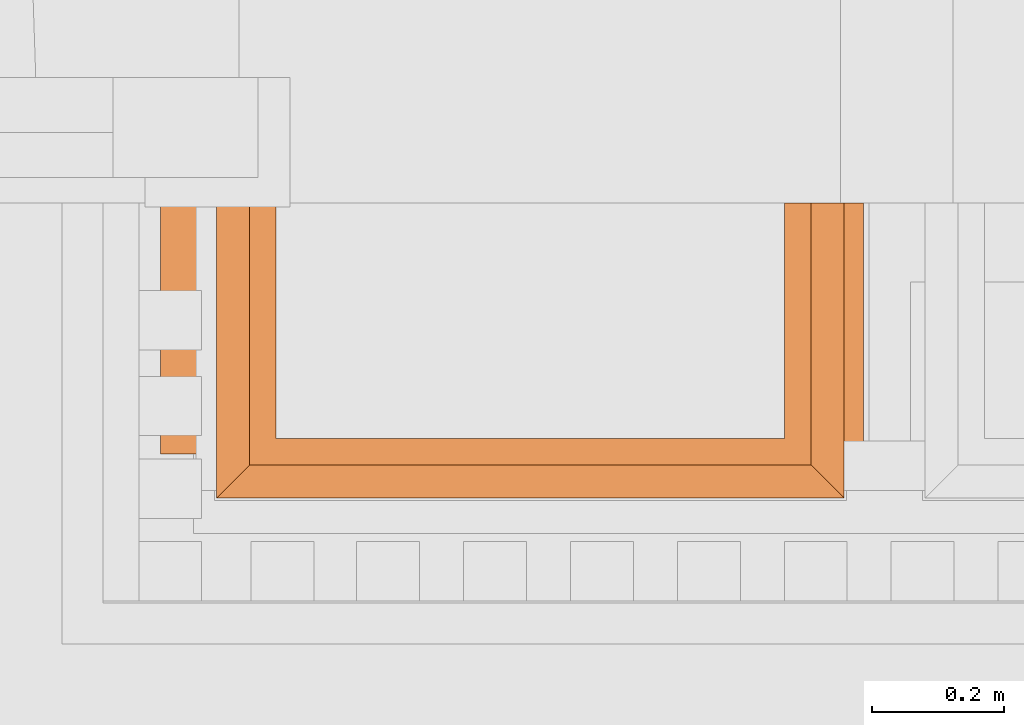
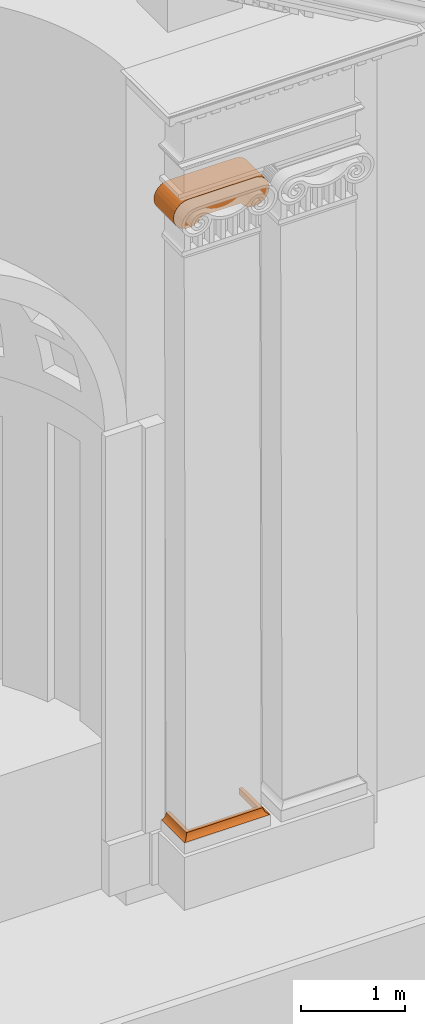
# One storey, part 33 of 44: 2 proxies.
"""IFC2X3 building model written with IfcOpenShell, lengths in metres."""

from ifc_helpers import new_model, entity, si_unit, converted_unit, derived_unit, direction, frame, origin, place, context, subcontext, project, spatial, faceted_brep, material, element, save


model = new_model("IFC2X3")

# Units and contexts
model_context = context("Model", 3, precision=1e-05, world=origin(), true_north=direction((6.12303176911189e-17, 1.0)))
body_context = subcontext(model_context, "Body", "Model", "MODEL_VIEW")
ifc_project = project(units=[si_unit("LENGTHUNIT", "METRE"), si_unit("AREAUNIT", "SQUARE_METRE"), si_unit("VOLUMEUNIT", "CUBIC_METRE"), converted_unit("PLANEANGLEUNIT", "DEGREE", entity("IfcRatioMeasure", 0.0174532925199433), si_unit("PLANEANGLEUNIT", "RADIAN"), dimensions=[0, 0, 0, 0, 0, 0, 0]), si_unit("MASSUNIT", "GRAM", prefix="KILO"), derived_unit("MASSDENSITYUNIT", [(si_unit("MASSUNIT", "GRAM", prefix="KILO"), 1), (si_unit("LENGTHUNIT", "METRE"), -3)]), si_unit("TIMEUNIT", "SECOND"), si_unit("FREQUENCYUNIT", "HERTZ"), si_unit("THERMODYNAMICTEMPERATUREUNIT", "DEGREE_CELSIUS"), derived_unit("THERMALTRANSMITTANCEUNIT", [(si_unit("MASSUNIT", "GRAM", prefix="KILO"), 1), (si_unit("THERMODYNAMICTEMPERATUREUNIT", "KELVIN"), -1), (si_unit("TIMEUNIT", "SECOND"), -3)]), derived_unit("VOLUMETRICFLOWRATEUNIT", [(si_unit("LENGTHUNIT", "METRE"), 3), (si_unit("TIMEUNIT", "SECOND"), -1)]), si_unit("ELECTRICCURRENTUNIT", "AMPERE"), si_unit("ELECTRICVOLTAGEUNIT", "VOLT"), si_unit("POWERUNIT", "WATT"), si_unit("FORCEUNIT", "NEWTON", prefix="KILO"), si_unit("ILLUMINANCEUNIT", "LUX"), si_unit("LUMINOUSFLUXUNIT", "LUMEN"), si_unit("LUMINOUSINTENSITYUNIT", "CANDELA"), derived_unit("USERDEFINED", [(si_unit("MASSUNIT", "GRAM", prefix="KILO"), -1), (si_unit("LENGTHUNIT", "METRE"), -2), (si_unit("TIMEUNIT", "SECOND"), 3), (si_unit("LUMINOUSFLUXUNIT", "LUMEN"), 1)]), derived_unit("LINEARVELOCITYUNIT", [(si_unit("LENGTHUNIT", "METRE"), 1), (si_unit("TIMEUNIT", "SECOND"), -1)]), si_unit("PRESSUREUNIT", "PASCAL"), derived_unit("USERDEFINED", [(si_unit("LENGTHUNIT", "METRE"), -2), (si_unit("MASSUNIT", "GRAM", prefix="KILO"), 1), (si_unit("TIMEUNIT", "SECOND"), -2)])], contexts=[model_context])

# Site, building, storey
site_placement = place(None, origin())
site = spatial("IfcSite", under=ifc_project, at=site_placement, Name="Default", CompositionType="ELEMENT")
building_placement = place(site_placement, origin())
building = spatial("IfcBuilding", under=site, at=building_placement, CompositionType="ELEMENT")
storey_placement = place(building_placement, origin())
storey = spatial("IfcBuildingStorey", under=building, at=storey_placement, Name="Livello 1", CompositionType="ELEMENT", Elevation=0.0)

# Proxies
ifc_material = material(Name="Travertino")
proxy_1_placement = place(storey_placement, frame((2.69709081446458, 0.883372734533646, 21.2505882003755)))
element("IfcBuildingElementProxy", 1, at=proxy_1_placement, inside=storey, material=ifc_material, Name="Stratigrafia", context=body_context, shape_type="Brep", body=[
    faceted_brep([(0.202441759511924, 0.195, 0.00495230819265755), (0.202228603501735, 0.195, 0.00475895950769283), (0.219471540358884, 0.195, 0.00918128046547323), (0.236149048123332, 0.195, 0.0154051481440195), (0.235377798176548, 0.195, 0.0155005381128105), (0.234604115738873, 0.195, 0.0155817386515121), (0.23276441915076, 0.195, 0.0157169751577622), (0.230920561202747, 0.195, 0.0157713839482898), (0.228992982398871, 0.195, 0.0157417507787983), (0.227068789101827, 0.195, 0.0156237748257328), (0.225151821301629, 0.195, 0.0154176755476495), (0.223246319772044, 0.195, 0.015123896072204), (0.221437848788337, 0.195, 0.0147613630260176), (0.219647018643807, 0.195, 0.0143198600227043), (0.21684041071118, 0.195, 0.0134560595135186), (0.214100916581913, 0.195, 0.0123985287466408), (0.21130606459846, 0.195, 0.0110826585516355), (0.208615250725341, 0.195, 0.00956534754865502), (0.205538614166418, 0.195, 0.00748647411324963), (0.202656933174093, 0.195, 0.00514482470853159), (0.235311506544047, 0.14769119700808, 0.015508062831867), (0.234604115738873, 0.15122943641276, 0.0155817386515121), (0.23535053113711, 0.153479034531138, 0.0155036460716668), (0.235306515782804, 0.158497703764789, 0.0155086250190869), (0.236149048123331, 0.1625, 0.0154051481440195), (0.236149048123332, 0.1584375, 0.0154051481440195), (0.236149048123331, 0.154375, 0.0154051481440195), (0.23614904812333, 0.187923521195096, 0.0154051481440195), (0.235377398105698, 0.184385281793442, 0.0155005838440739), (0.235447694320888, 0.189692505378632, 0.0154924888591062), (0.235285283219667, 0.163523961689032, 0.0155110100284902), (0.234604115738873, 0.16747943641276, 0.0155817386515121), (0.235367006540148, 0.169772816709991, 0.0155017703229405), (0.234604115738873, 0.187923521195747, 0.0155817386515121), (0.236149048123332, 0.14625, 0.0154051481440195), (0.235377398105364, 0.140614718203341, 0.0155005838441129), (0.234604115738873, 0.144152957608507, 0.0155817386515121), (0.234604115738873, 0.137076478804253, 0.0155817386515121), (0.234604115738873, 0.182288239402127, 0.0155817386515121), (0.235392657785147, 0.17846167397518, 0.015498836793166), (0.234604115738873, 0.172066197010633, 0.0155817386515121), (0.236149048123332, 0.137076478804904, 0.0154051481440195), (0.235307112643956, 0.135307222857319, 0.0155085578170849), (0.236149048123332, 0.13, 0.0154051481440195), (0.23614904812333, 0.180847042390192, 0.0154051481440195), (0.23537779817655, 0.13, 0.0155005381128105), (0.234604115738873, 0.13, 0.0155817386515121), (0.234604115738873, 0.176652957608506, 0.0155817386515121), (0.234604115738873, 0.18084967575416, 0.0155817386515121), (0.23614904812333, 0.171673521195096, 0.0154051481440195), (0.234604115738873, 0.158305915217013, 0.0155817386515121), (0.234604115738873, 0.1625, 0.0155817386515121), (0.232764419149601, 0.151225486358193, 0.0157169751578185), (0.232651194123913, 0.1654432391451, 0.0157226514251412), (0.230920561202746, 0.158300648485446, 0.0157713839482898), (0.23276441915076, 0.13, 0.0157169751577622), (0.230920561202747, 0.13, 0.0157713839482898), (0.230920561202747, 0.144150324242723, 0.0157713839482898), (0.232764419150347, 0.181836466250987, 0.0157169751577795), (0.230920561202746, 0.180849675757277, 0.0157713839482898), (0.230920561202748, 0.1625, 0.0157713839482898), (0.228992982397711, 0.151224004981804, 0.015741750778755), (0.228865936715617, 0.166307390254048, 0.0157366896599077), (0.227068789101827, 0.158298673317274, 0.0156237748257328), (0.228992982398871, 0.13, 0.0157417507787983), (0.227068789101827, 0.13, 0.0156237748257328), (0.227068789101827, 0.144149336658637, 0.0156237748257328), (0.228992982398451, 0.181275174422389, 0.015741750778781), (0.227068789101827, 0.180850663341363, 0.0156237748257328), (0.227068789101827, 0.1625, 0.0156237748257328), (0.225151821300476, 0.151224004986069, 0.0154176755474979), (0.225025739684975, 0.16630961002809, 0.0154009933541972), (0.223246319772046, 0.15829867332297, 0.015123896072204), (0.225151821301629, 0.13, 0.0154176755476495), (0.223246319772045, 0.13, 0.015123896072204), (0.223246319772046, 0.144149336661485, 0.015123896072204), (0.225151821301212, 0.181273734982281, 0.0154176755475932), (0.223246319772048, 0.180850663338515, 0.015123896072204), (0.223246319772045, 0.1625, 0.015123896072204), (0.221437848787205, 0.15122548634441, 0.014761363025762), (0.221327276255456, 0.165441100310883, 0.0147365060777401), (0.219647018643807, 0.158300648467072, 0.0143198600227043), (0.221437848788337, 0.13, 0.0147613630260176), (0.219647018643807, 0.13, 0.0143198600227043), (0.219647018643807, 0.144150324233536, 0.0143198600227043), (0.221437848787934, 0.181837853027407, 0.0147613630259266), (0.219647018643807, 0.180849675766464, 0.0143198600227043), (0.219647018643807, 0.1625, 0.0143198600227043), (0.217295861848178, 0.150768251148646, 0.0136109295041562), (0.21684041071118, 0.13, 0.0134560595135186), (0.216694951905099, 0.171325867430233, 0.0134053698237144), (0.214100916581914, 0.158305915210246, 0.0123985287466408), (0.214100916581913, 0.166683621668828, 0.0123985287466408), (0.214100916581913, 0.13, 0.0123985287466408), (0.211306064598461, 0.13, 0.0110826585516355), (0.208615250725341, 0.13, 0.00956534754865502), (0.211427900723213, 0.154345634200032, 0.0111453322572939), (0.210711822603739, 0.174546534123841, 0.0107697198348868), (0.208615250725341, 0.1625, 0.00956534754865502), (0.208615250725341, 0.166667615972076, 0.00956534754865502), (0.202656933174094, 0.158332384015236, 0.00514482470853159), (0.202656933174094, 0.16046875, 0.00514482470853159), (0.202656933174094, 0.1625, 0.00514482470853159), (0.202656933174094, 0.164790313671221, 0.00514482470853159), (0.202656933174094, 0.167080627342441, 0.00514482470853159), (0.202656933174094, 0.169370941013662, 0.00514482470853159), (0.202656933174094, 0.171661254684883, 0.00514482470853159), (0.202656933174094, 0.173951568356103, 0.00514482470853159), (0.202656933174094, 0.176241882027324, 0.00514482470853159), (0.202656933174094, 0.178532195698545, 0.00514482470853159), (0.202656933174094, 0.180822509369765, 0.00514482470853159), (0.202656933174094, 0.184366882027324, 0.00514482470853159), (0.202656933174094, 0.187911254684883, 0.00514482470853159), (0.202656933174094, 0.191455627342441, 0.00514482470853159), (0.205631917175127, 0.15726318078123, 0.00755549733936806), (0.205538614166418, 0.13, 0.00748647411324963), (0.202656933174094, 0.13, 0.00514482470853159), (0.202656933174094, 0.133544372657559, 0.00514482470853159), (0.202656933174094, 0.135834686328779, 0.00514482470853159), (0.202656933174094, 0.138125, 0.00514482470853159), (0.202656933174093, 0.14015625, 0.00514482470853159), (0.202656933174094, 0.1421875, 0.00514482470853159), (0.202656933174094, 0.14421875, 0.00514482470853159), (0.202656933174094, 0.14625, 0.00514482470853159), (0.202656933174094, 0.14828125, 0.00514482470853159), (0.202656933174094, 0.1503125, 0.00514482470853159), (0.202656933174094, 0.15234375, 0.00514482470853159), (0.202656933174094, 0.154375, 0.00514482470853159), (0.202656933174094, 0.15640625, 0.00514482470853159), (0.202435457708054, 0.141578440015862, 0.00494662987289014), (0.202442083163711, 0.139378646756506, 0.00495259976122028), (0.202452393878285, 0.179677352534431, 0.00496188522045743), (0.202452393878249, 0.17738703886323, 0.00496188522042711), (0.202228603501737, 0.176677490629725, 0.00475895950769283), (0.202228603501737, 0.178967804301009, 0.00475895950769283), (0.202228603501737, 0.181258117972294, 0.00475895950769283), (0.202228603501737, 0.172096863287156, 0.00475895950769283), (0.202228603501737, 0.174387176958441, 0.00475895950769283), (0.202452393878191, 0.172806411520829, 0.00496188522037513), (0.202439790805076, 0.159500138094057, 0.00495053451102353), (0.202228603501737, 0.15835498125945, 0.00475895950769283), (0.202228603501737, 0.160645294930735, 0.00475895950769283), (0.202228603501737, 0.169806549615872, 0.00475895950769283), (0.202461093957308, 0.170711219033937, 0.00496971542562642), (0.2024332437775, 0.168631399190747, 0.0049446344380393), (0.202424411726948, 0.19160860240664, 0.00493667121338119), (0.202441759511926, 0.13, 0.00495230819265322), (0.202228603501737, 0.13, 0.00475895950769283), (0.202438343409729, 0.132344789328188, 0.00494923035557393), (0.202228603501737, 0.133544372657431, 0.00475895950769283), (0.202442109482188, 0.134689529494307, 0.00495262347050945), (0.202457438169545, 0.189405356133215, 0.00496642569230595), (0.202228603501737, 0.190419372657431, 0.00475895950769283), (0.202460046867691, 0.147464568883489, 0.00496877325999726), (0.202432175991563, 0.150380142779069, 0.00494367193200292), (0.202444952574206, 0.157042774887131, 0.00495518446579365), (0.202441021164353, 0.145234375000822, 0.00495164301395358), (0.202228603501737, 0.147721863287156, 0.00475895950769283), (0.202433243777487, 0.164050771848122, 0.00494463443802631), (0.202228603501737, 0.193227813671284, 0.00475895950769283), (0.202228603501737, 0.162935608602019, 0.00475895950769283), (0.202431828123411, 0.161790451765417, 0.00494335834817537), (0.202228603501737, 0.165225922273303, 0.00475895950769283), (0.202228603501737, 0.167516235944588, 0.00475895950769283), (0.202431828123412, 0.166371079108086, 0.00494335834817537), (0.202228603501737, 0.154810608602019, 0.00475895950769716), (0.202451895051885, 0.181922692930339, 0.00496143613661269), (0.202450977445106, 0.175126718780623, 0.00496060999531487), (0.202458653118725, 0.136979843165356, 0.0049675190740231), (0.202228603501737, 0.185838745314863, 0.00475895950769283), (0.202435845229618, 0.186993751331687, 0.00494697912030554), (0.202426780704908, 0.184693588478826, 0.00493880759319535), (0.202452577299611, 0.154996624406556, 0.00496205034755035), (0.202228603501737, 0.151266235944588, 0.00475895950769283), (0.202431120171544, 0.152959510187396, 0.00494272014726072), (0.202228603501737, 0.183548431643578, 0.00475895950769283), (0.202228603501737, 0.188129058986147, 0.00475895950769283), (0.202228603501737, 0.140633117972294, 0.00475895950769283), (0.202228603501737, 0.137088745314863, 0.0047589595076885), (0.202228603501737, 0.144177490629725, 0.00475895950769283), (0.202228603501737, 0.149494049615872, 0.00475895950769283), (1.0616159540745, 0.0, 0.204508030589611), (1.04705822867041, 0.0, 0.245490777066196), (1.02245795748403, 0.0, 0.281356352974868), (0.989467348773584, 0.0, 0.309695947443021), (0.950302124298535, 0.0, 0.328606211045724), (0.907592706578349, 0.0, 0.336817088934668), (0.159155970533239, 0.0, 0.336817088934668), (0.116446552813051, 0.0, 0.328606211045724), (0.0772813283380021, 0.0, 0.309695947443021), (0.0442907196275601, 0.0, 0.281356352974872), (0.0196904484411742, 0.0, 0.245490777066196), (0.00513272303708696, 0.0, 0.204508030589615), (0.0015952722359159, 0.0, 0.161160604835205), (0.00931567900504, 0.0, 0.118359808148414), (0.0277754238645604, 0.0, 0.0789802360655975), (0.0557347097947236, 0.0, 0.0456667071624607), (0.0913157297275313, 0.0, 0.0206566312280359), (0.132128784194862, 0.0, 0.00562973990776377), (0.175432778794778, 0.0, 0.0015952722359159), (0.196876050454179, 0.0, 0.00520973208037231), (0.218319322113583, 0.0, 0.00882419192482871), (0.238113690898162, 0.0, 0.0178275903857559), (0.257908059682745, 0.0, 0.0268309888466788), (0.291540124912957, 0.0, 0.0544062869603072), (0.316956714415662, 0.0, 0.0896980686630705), (0.749791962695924, 0.0, 0.0896980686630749), (0.775208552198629, 0.0, 0.0544062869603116), (0.80884061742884, 0.0, 0.0268309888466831), (0.848429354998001, 0.0, 0.00882419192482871), (0.891315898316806, 0.0, 0.0015952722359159), (0.934619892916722, 0.0, 0.00562973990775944), (0.975432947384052, 0.0, 0.0206566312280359), (1.01101396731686, 0.0, 0.0456667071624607), (1.03897325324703, 0.0, 0.0789802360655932), (1.05743299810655, 0.0, 0.118359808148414), (1.06515340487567, 0.0, 0.161160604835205), (0.00513272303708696, 0.38, 0.204508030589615), (0.0196904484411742, 0.38, 0.245490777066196), (0.0442907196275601, 0.38, 0.281356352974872), (0.0772813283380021, 0.38, 0.309695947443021), (0.116446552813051, 0.38, 0.328606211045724), (0.159155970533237, 0.38, 0.336817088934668), (0.907592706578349, 0.38, 0.336817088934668), (0.950302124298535, 0.38, 0.328606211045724), (0.989467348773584, 0.38, 0.309695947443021), (1.02245795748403, 0.38, 0.281356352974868), (1.04705822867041, 0.38, 0.245490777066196), (1.0616159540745, 0.38, 0.204508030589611), (1.06515340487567, 0.38, 0.161160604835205), (1.05743299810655, 0.38, 0.118359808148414), (1.03897325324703, 0.38, 0.0789802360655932), (1.01101396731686, 0.38, 0.0456667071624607), (0.975432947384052, 0.38, 0.0206566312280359), (0.934619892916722, 0.38, 0.00562973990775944), (0.891315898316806, 0.38, 0.0015952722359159), (0.848429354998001, 0.38, 0.00882419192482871), (0.80884061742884, 0.38, 0.0268309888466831), (0.775208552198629, 0.38, 0.0544062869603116), (0.749791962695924, 0.38, 0.0896980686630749), (0.316956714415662, 0.38, 0.0896980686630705), (0.291540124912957, 0.38, 0.0544062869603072), (0.257908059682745, 0.38, 0.0268309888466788), (0.218319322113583, 0.38, 0.00882419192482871), (0.175432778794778, 0.38, 0.0015952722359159), (0.132128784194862, 0.38, 0.00562973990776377), (0.0913157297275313, 0.38, 0.0206566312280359), (0.0557347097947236, 0.38, 0.0456667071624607), (0.0277754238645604, 0.38, 0.0789802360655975), (0.00931567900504, 0.38, 0.118359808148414), (0.0015952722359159, 0.38, 0.161160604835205), (0.21947154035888, 0.13, 0.00918128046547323)], [[[0, 1, 2, 3, 4, 5, 6, 7, 8, 9, 10, 11, 12, 13, 14, 15, 16, 17, 18, 19]], [[20, 21, 22]], [[23, 24, 25, 26]], [[27, 28, 29]], [[30, 31, 32]], [[28, 33, 29]], [[20, 34, 35]], [[36, 35, 37]], [[38, 33, 28]], [[38, 28, 39]], [[31, 40, 32]], [[32, 24, 30]], [[35, 41, 42]], [[20, 22, 26]], [[29, 33, 5]], [[42, 41, 43]], [[44, 28, 27]], [[41, 35, 34]], [[29, 4, 3]], [[42, 45, 46]], [[44, 39, 28]], [[21, 20, 36]], [[39, 40, 47, 48, 38]], [[37, 35, 42]], [[39, 44, 49]], [[49, 24, 32]], [[39, 32, 40]], [[49, 32, 39]], [[30, 50, 51, 31]], [[36, 20, 35]], [[34, 20, 26]], [[24, 23, 30]], [[22, 21, 50]], [[50, 30, 23]], [[27, 29, 3]], [[5, 4, 29]], [[37, 42, 46]], [[43, 45, 42]], [[23, 22, 50]], [[26, 22, 23]], [[52, 53, 51]], [[54, 52, 55, 56, 57]], [[58, 59, 7, 6]], [[58, 6, 5, 33, 38, 48]], [[36, 37, 46, 55, 52, 51, 50, 21]], [[53, 58, 48]], [[54, 53, 52]], [[53, 48, 47, 40, 31, 51]], [[53, 54, 60, 59]], [[59, 58, 53]], [[61, 62, 60]], [[63, 61, 64, 65, 66]], [[67, 68, 9, 8]], [[67, 8, 7, 59]], [[57, 56, 64, 61, 60, 54]], [[62, 67, 59]], [[63, 62, 61]], [[60, 62, 59]], [[62, 63, 69, 68]], [[68, 67, 62]], [[70, 71, 69]], [[72, 70, 73, 74, 75]], [[76, 77, 11, 10]], [[76, 10, 9, 68]], [[66, 65, 73, 70, 69, 63]], [[71, 76, 68]], [[72, 71, 70]], [[69, 71, 68]], [[71, 72, 78, 77]], [[77, 76, 71]], [[79, 80, 78]], [[81, 79, 82, 83, 84]], [[85, 86, 13, 12]], [[85, 12, 11, 77]], [[75, 74, 82, 79, 78, 72]], [[80, 85, 77]], [[81, 80, 79]], [[78, 80, 77]], [[80, 81, 87, 86]], [[86, 85, 80]], [[88, 87, 81, 84, 83]], [[89, 88, 83]], [[88, 90, 87]], [[90, 91, 92, 15]], [[90, 14, 13]], [[88, 89, 93]], [[88, 93, 91]], [[14, 90, 15]], [[90, 88, 91]], [[90, 13, 86, 87]], [[94, 95, 96]], [[16, 97, 17]], [[97, 96, 98]], [[97, 98, 99, 17]], [[96, 92, 91, 93]], [[96, 95, 98]], [[97, 15, 92]], [[94, 96, 93]], [[96, 97, 92]], [[97, 16, 15]], [[18, 100, 101, 102, 103, 104, 105, 106, 107, 108, 109, 110, 111, 112, 113, 19]], [[114, 100, 18]], [[115, 114, 95]], [[114, 99, 98, 95]], [[114, 116, 117, 118, 119, 120, 121, 122, 123, 124, 125, 126, 127, 128, 100]], [[99, 114, 18]], [[114, 115, 116]], [[18, 17, 99]], [[129, 120, 130]], [[131, 132, 133, 134, 135]], [[136, 137, 138]], [[139, 140, 141]], [[142, 143, 144]], [[145, 0, 19]], [[146, 147, 148]], [[148, 149, 150]], [[151, 152, 145]], [[153, 154, 124]], [[155, 140, 139]], [[109, 108, 132, 131, 110]], [[107, 106, 138]], [[153, 156, 157]], [[102, 158, 103]], [[105, 104, 144]], [[159, 1, 0]], [[141, 160, 161]], [[162, 163, 164]], [[155, 165, 140]], [[166, 110, 131]], [[133, 167, 137]], [[150, 117, 148]], [[106, 105, 143]], [[101, 100, 139]], [[148, 117, 116]], [[118, 150, 168]], [[136, 138, 143]], [[169, 170, 171]], [[155, 128, 172]], [[101, 139, 161]], [[0, 145, 159]], [[161, 102, 101]], [[104, 103, 164]], [[154, 173, 174]], [[100, 155, 139]], [[172, 174, 165]], [[141, 161, 139]], [[161, 160, 158]], [[164, 163, 144]], [[158, 102, 161]], [[144, 104, 164]], [[158, 164, 103]], [[132, 108, 167]], [[167, 133, 132]], [[167, 138, 137]], [[111, 166, 171]], [[158, 160, 162]], [[144, 163, 142]], [[162, 164, 158]], [[138, 106, 143]], [[167, 108, 107]], [[107, 138, 167]], [[142, 136, 143]], [[111, 171, 170]], [[135, 166, 131]], [[166, 111, 110]], [[175, 171, 166]], [[169, 171, 175]], [[166, 135, 175]], [[112, 111, 170]], [[112, 170, 151]], [[170, 176, 151]], [[151, 113, 112]], [[113, 151, 145]], [[152, 151, 176]], [[170, 169, 176]], [[144, 143, 105]], [[19, 113, 145]], [[145, 152, 159]], [[130, 177, 129]], [[122, 121, 120, 129]], [[118, 117, 150]], [[168, 178, 130]], [[155, 100, 128]], [[129, 179, 156]], [[127, 172, 128]], [[168, 119, 118]], [[150, 149, 178]], [[149, 148, 147]], [[116, 146, 148]], [[119, 168, 130]], [[178, 168, 150]], [[177, 130, 178]], [[122, 156, 123]], [[129, 177, 179]], [[129, 156, 122]], [[123, 156, 153]], [[156, 179, 157]], [[125, 124, 154, 126]], [[157, 180, 153]], [[180, 154, 153]], [[154, 180, 173]], [[174, 126, 154]], [[127, 174, 172]], [[174, 173, 165]], [[124, 123, 153]], [[120, 119, 130]], [[174, 127, 126]], [[155, 172, 165]], [[181, 182, 183, 184, 185, 186, 187, 188, 189, 190, 191, 192, 193, 194, 195, 196, 197, 198, 199, 200, 201, 202, 203, 204, 205, 206, 207, 208, 209, 210, 211, 212, 213, 214, 215, 216]], [[217, 218, 219, 220, 221, 222, 223, 224, 225, 226, 227, 228, 229, 230, 231, 232, 233, 234, 235, 236, 237, 238, 239, 240, 241, 242, 243, 244, 245, 246, 247, 248, 249, 250]], [[189, 220, 219, 190]], [[187, 222, 221, 188]], [[220, 189, 188, 221]], [[190, 219, 218, 191]], [[249, 248, 195, 194]], [[192, 217, 250, 193]], [[193, 250, 249, 194]], [[218, 217, 192, 191]], [[195, 248, 247, 196]], [[247, 246, 197, 196]], [[244, 243, 1]], [[197, 246, 245, 198]], [[244, 199, 198, 245]], [[1, 159, 152, 176, 169, 175, 135, 134, 133, 137, 136, 142, 163, 162, 160, 141, 140, 165, 173, 180, 157, 179, 177, 178, 149, 147, 199, 244]], [[243, 2, 1]], [[203, 242, 241, 204]], [[243, 3, 2]], [[3, 243, 242]], [[203, 43, 41, 34, 26, 25, 24, 49, 44, 27, 3, 242]], [[147, 201, 200, 199]], [[241, 240, 205, 204]], [[147, 251, 201]], [[43, 203, 202, 201]], [[43, 201, 251]], [[206, 205, 240, 239]], [[208, 237, 236, 209]], [[207, 238, 237, 208]], [[209, 236, 235, 210]], [[233, 232, 213, 212]], [[211, 234, 233, 212]], [[210, 235, 234, 211]], [[213, 232, 231, 214]], [[239, 238, 207, 206]], [[216, 229, 228, 181]], [[215, 230, 229, 216]], [[181, 228, 227, 182]], [[225, 224, 185, 184]], [[183, 226, 225, 184]], [[182, 227, 226, 183]], [[185, 224, 223, 186]], [[214, 231, 230, 215]], [[187, 186, 223, 222]], [[65, 64, 56, 55, 46, 45, 43, 251, 147, 146, 116, 115, 95, 94, 93, 89, 83, 82, 74, 73]]]),
])
proxy_2_placement = place(storey_placement, frame((2.78207532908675, 0.815415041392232, 14.0944886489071)))
element("IfcBuildingElementProxy", 2, at=proxy_2_placement, inside=storey, Name="Stratigrafia", context=body_context, shape_type="Brep", body=[
    faceted_brep([(0.860981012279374, 0.447957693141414, 0.0015952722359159), (0.860981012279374, 0.447957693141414, 0.0725246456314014), (0.900981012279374, 0.447957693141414, 0.0725246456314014), (0.90198435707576, 0.447957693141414, 0.057057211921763), (0.906320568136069, 0.447957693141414, 0.0421761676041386), (0.913782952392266, 0.447957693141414, 0.028590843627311), (0.924015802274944, 0.447957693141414, 0.0169488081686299), (0.936531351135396, 0.447957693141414, 0.00780499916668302), (0.950733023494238, 0.447957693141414, 0.0015952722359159), (0.0015952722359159, 0.447957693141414, 0.0015952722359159), (0.0157969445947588, 0.447957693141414, 0.00780499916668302), (0.0283124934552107, 0.447957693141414, 0.0169488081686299), (0.038545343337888, 0.447957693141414, 0.028590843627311), (0.0460077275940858, 0.447957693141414, 0.0421761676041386), (0.0503439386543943, 0.447957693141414, 0.057057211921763), (0.0513472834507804, 0.447957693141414, 0.0725246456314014), (0.0913472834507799, 0.447957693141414, 0.0725246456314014), (0.0913472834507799, 0.447957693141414, 0.0015952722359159), (0.90198435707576, 0.0503439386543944, 0.057057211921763), (0.906320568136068, 0.0460077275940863, 0.0421761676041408), (0.913782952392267, 0.0385453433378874, 0.028590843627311), (0.900981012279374, 0.0513472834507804, 0.0725246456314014), (0.924015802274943, 0.0283124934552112, 0.0169488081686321), (0.936531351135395, 0.0157969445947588, 0.00780499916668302), (0.950733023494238, 0.00159527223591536, 0.0015952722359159), (0.590003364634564, 0.00159527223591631, 0.0015952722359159), (0.0015952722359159, 0.00159527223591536, 0.0015952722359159), (0.0913472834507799, 0.0913472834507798, 0.0015952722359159), (0.860981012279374, 0.0913472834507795, 0.0015952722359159), (0.860981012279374, 0.0913472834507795, 0.0725246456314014), (0.0513472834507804, 0.0513472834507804, 0.0725246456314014), (0.312572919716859, 0.0513472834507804, 0.0725246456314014), (0.0913472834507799, 0.0913472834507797, 0.0725246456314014), (0.572423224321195, 0.0334274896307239, 0.0221280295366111), (0.0157969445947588, 0.0157969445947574, 0.00780499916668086), (0.476164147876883, 0.0424788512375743, 0.0348723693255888), (0.0503439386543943, 0.0503439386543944, 0.057057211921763), (0.476164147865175, 0.0502370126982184, 0.0564642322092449), (0.476164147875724, 0.0218065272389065, 0.0116734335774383), (0.0460077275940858, 0.0460077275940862, 0.0421761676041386), (0.0283124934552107, 0.0283124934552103, 0.0169488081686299), (0.038545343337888, 0.0385453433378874, 0.028590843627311)], [[[0, 1, 2, 3, 4, 5, 6, 7, 8]], [[9, 10, 11, 12, 13, 14, 15, 16, 17]], [[4, 3, 18, 19]], [[5, 4, 19, 20]], [[21, 18, 3, 2]], [[7, 6, 22, 23]], [[8, 7, 23, 24]], [[6, 5, 20, 22]], [[0, 8, 24, 25, 26, 9, 17, 27, 28]], [[1, 0, 28, 29]], [[16, 15, 30, 31, 21, 2, 1, 29, 32]], [[33, 22, 20]], [[25, 34, 26]], [[23, 25, 24]], [[19, 35, 20]], [[31, 36, 37]], [[31, 37, 21]], [[23, 38, 25]], [[18, 21, 37]], [[39, 37, 36]], [[38, 40, 34]], [[18, 37, 19]], [[37, 35, 19]], [[35, 37, 39]], [[35, 33, 20]], [[38, 34, 25]], [[36, 31, 30]], [[41, 40, 33]], [[38, 33, 40]], [[41, 33, 35]], [[38, 23, 22]], [[35, 39, 41]], [[38, 22, 33]], [[29, 28, 27, 32]], [[12, 41, 39, 13]], [[13, 39, 36, 14]], [[14, 36, 30, 15]], [[9, 26, 34, 10]], [[10, 34, 40, 11]], [[12, 11, 40, 41]], [[32, 27, 17, 16]]]),
])

save(model, "model.ifc")
